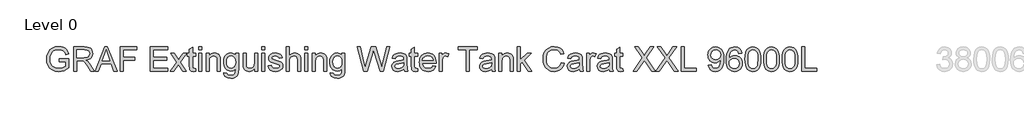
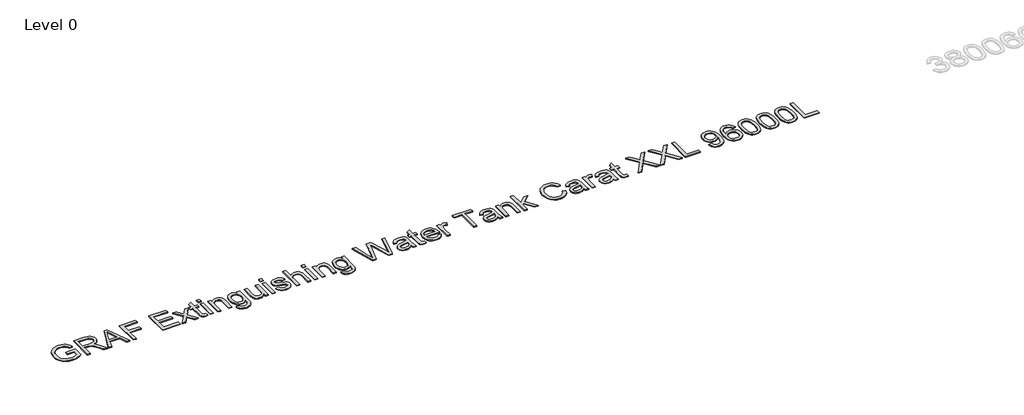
# One storey, part 26 of 37: 1 proxy.
"""IFC4 building model written with IfcOpenShell, lengths in millimetres."""

from ifc_helpers import new_model, si_unit, origin, origin_with_axes, place, context, project, spatial, polyline, outline, extrude, element, save

model = new_model("IFC4")

# Units and contexts
model_context = context("Model", 3, world=origin())
ifc_project = project(units=[si_unit("LENGTHUNIT", "METRE", prefix="MILLI")], contexts=[model_context])

# Site, building, storey
site = spatial("IfcSite", under=ifc_project)
building = spatial("IfcBuilding", under=site)
storey = spatial("IfcBuildingStorey", under=building, Name="Level 0", Elevation=0.0)

# Proxy
placement = place(None, origin())
element("IfcBuildingElementProxy", 1, Name="300mm Arial", ObjectType="300mm Arial", at=placement, inside=storey, context=model_context, shape_type="SweptSolid", body=[
    extrude(outline(polyline([(16759.0059613, -21583.2545597), (16759.0059613, -21545.5834434), (16881.4370893, -21545.5834434), (16881.4370893, -21658.2289103), (16851.6846329, -21678.9222726), (16820.9940775, -21693.7663111), (16789.4389993, -21702.7058436), (16757.0929749, -21705.6856877), (16714.8325307, -21700.949207), (16676.6371825, -21686.739765), (16644.9073605, -21663.5540022), (16622.0434945, -21631.8885595), (16608.2203285, -21593.9047435), (16603.6126065, -21551.7638609), (16608.2019344, -21509.3194757), (16621.9699181, -21469.8365406), (16644.3463404, -21436.717964), (16674.7609844, -21413.3666543), (16711.8067013, -21399.5158972), (16754.0763425, -21394.8989782), (16785.1071888, -21397.5753197), (16813.0110382, -21405.6043443), (16836.5095006, -21418.4066377), (16854.3241862, -21435.4027859), (16867.5035587, -21457.4113262), (16877.0960817, -21485.2507962), (16842.3680214, -21495.0364573), (16834.6149083, -21475.1800266), (16825.1879322, -21460.1980323), (16812.7167326, -21448.9040551), (16795.830949, -21440.1116754), (16775.6986068, -21434.4554897), (16753.4877313, -21432.5700945), (16727.4876713, -21434.6026425), (16705.2584018, -21440.7002866), (16686.8826961, -21450.0996716), (16672.4433278, -21462.0374423), (16653.0559467, -21491.0633317), (16644.2267788, -21519.50061), (16641.2837228, -21550.2187566), (16644.824587, -21586.2436009), (16655.4471796, -21615.8856927), (16672.8296039, -21638.9334997), (16696.6499631, -21655.1754898), (16724.5262213, -21664.804801), (16754.0763425, -21668.0145714), (16780.168373, -21665.5957473), (16805.6166101, -21658.3392749), (16827.7171209, -21648.3420817), (16843.765973, -21637.701095), (16843.765973, -21583.2545597), (16759.0059613, -21583.2545597)])), origin_with_axes(), (0.0, 0.0, 1.0), 10.0),
    extrude(outline(polyline([(16942.6526533, -21700.9767982), (16942.6526533, -21399.6078677), (17072.5149976, -21399.6078677), (17107.4178018, -21401.6404158), (17132.8108566, -21407.7380598), (17151.3705032, -21418.9952489), (17165.7730833, -21436.5064318), (17175.0161185, -21458.2206666), (17178.0971302, -21482.087011), (17172.9927675, -21511.7750881), (17157.6796794, -21536.3863935), (17146.0799003, -21546.4157764), (17131.6980135, -21554.4310054), (17094.5879173, -21564.4190016), (17115.9986494, -21580.532233), (17146.532855, -21619.3069952), (17196.7855355, -21700.9767982), (17153.0075781, -21700.9767982), (17113.7913574, -21638.5104354), (17085.4644438, -21597.1604991), (17065.5620278, -21577.6259652), (17047.6461747, -21570.4522663), (17025.7939842, -21569.1278911), (16980.3237696, -21569.1278911), (16980.3237696, -21700.9767982), (16942.6526533, -21700.9767982)]), holes=[polyline([(16980.3237696, -21531.4567748), (17064.6423229, -21531.4567748), (17088.8581552, -21530.1232026), (17107.6477281, -21526.1224859), (17121.7927908, -21519.1879103), (17132.0750926, -21509.0527613), (17138.3382835, -21496.7930938), (17140.4260139, -21483.4849626), (17136.4436913, -21465.109257), (17124.4967235, -21450.3020067), (17103.941317, -21440.5347397), (17074.1336783, -21437.278984), (16980.3237696, -21437.278984), (16980.3237696, -21531.4567748)])]), origin_with_axes(), (0.0, 0.0, 1.0), 10.0),
    extrude(outline(polyline([(17208.9256414, -21700.9767982), (17329.2230538, -21399.6078677), (17361.3023638, -21399.6078677), (17481.5997762, -21700.9767982), (17441.7949443, -21700.9767982), (17407.2876132, -21606.7990074), (17283.164228, -21606.7990074), (17248.7304732, -21700.9767982), (17208.9256414, -21700.9767982)]), holes=[polyline([(17296.996591, -21569.1278911), (17393.5288265, -21569.1278911), (17366.3791353, -21495.0364573), (17345.2627088, -21437.278984), (17326.500727, -21488.5617342), (17296.996591, -21569.1278911)])]), origin_with_axes(), (0.0, 0.0, 1.0), 10.0),
    extrude(outline(polyline([(17521.8460665, -21700.9767982), (17521.8460665, -21399.6078677), (17724.3283166, -21399.6078677), (17724.3283166, -21437.278984), (17559.5171828, -21437.278984), (17559.5171828, -21526.7478853), (17700.7838689, -21526.7478853), (17700.7838689, -21564.4190016), (17559.5171828, -21564.4190016), (17559.5171828, -21700.9767982), (17521.8460665, -21700.9767982)])), origin_with_axes(), (0.0, 0.0, 1.0), 10.0),
    extrude(outline(polyline([(17893.84834, -21700.9767982), (17893.84834, -21399.6078677), (18110.4572587, -21399.6078677), (18110.4572587, -21437.278984), (17931.5194563, -21437.278984), (17931.5194563, -21526.7478853), (18101.0394797, -21526.7478853), (18101.0394797, -21564.4190016), (17931.5194563, -21564.4190016), (17931.5194563, -21663.3056819), (18115.1661483, -21663.3056819), (18115.1661483, -21700.9767982), (17893.84834, -21700.9767982)])), origin_with_axes(), (0.0, 0.0, 1.0), 10.0),
    extrude(outline(polyline([(18143.4194855, -21700.9767982), (18223.9120661, -21589.7292828), (18148.1283751, -21479.6589899), (18193.4514369, -21479.6589899), (18230.0189072, -21532.6339972), (18247.0886318, -21557.6499729), (18261.877488, -21537.1957339), (18303.5217298, -21479.6589899), (18348.8447916, -21479.6589899), (18269.2351279, -21589.7292828), (18345.9017357, -21700.9767982), (18300.5786739, -21700.9767982), (18254.4462717, -21634.0958515), (18245.9849858, -21621.8821692), (18188.7425473, -21700.9767982), (18143.4194855, -21700.9767982)])), origin_with_axes(), (0.0, 0.0, 1.0), 10.0),
    extrude(outline(polyline([(18458.9150846, -21669.5596758), (18463.6239741, -21702.0804442), (18435.4442133, -21705.6856877), (18417.3628132, -21704.1221892), (18403.8799381, -21699.4316938), (18394.3517944, -21692.2028126), (18388.1345887, -21683.0241568), (18384.7132861, -21667.2604133), (18383.572852, -21640.276269), (18383.572852, -21517.3301062), (18355.3195147, -21517.3301062), (18355.3195147, -21479.6589899), (18383.572852, -21479.6589899), (18383.572852, -21425.8746422), (18421.2439683, -21403.7281461), (18421.2439683, -21479.6589899), (18458.9150846, -21479.6589899), (18458.9150846, -21517.3301062), (18421.2439683, -21517.3301062), (18421.2439683, -21639.172623), (18423.230531, -21658.5967923), (18429.668466, -21665.4761856), (18442.5075476, -21668.0145714), (18458.9150846, -21669.5596758)])), origin_with_axes(), (0.0, 0.0, 1.0), 10.0),
    extrude(outline(polyline([(18496.5862009, -21437.278984), (18496.5862009, -21399.6078677), (18534.2573172, -21399.6078677), (18534.2573172, -21437.278984), (18496.5862009, -21437.278984)])), origin_with_axes(), (0.0, 0.0, 1.0), 10.0),
    extrude(outline(polyline([(18496.5862009, -21700.9767982), (18496.5862009, -21479.6589899), (18534.2573172, -21479.6589899), (18534.2573172, -21700.9767982), (18496.5862009, -21700.9767982)])), origin_with_axes(), (0.0, 0.0, 1.0), 10.0),
    extrude(outline(polyline([(18590.7639916, -21700.9767982), (18590.7639916, -21479.6589899), (18628.435108, -21479.6589899), (18628.435108, -21510.5610775), (18641.5225099, -21494.981275), (18657.2402682, -21483.8528446), (18675.5883827, -21477.1757864), (18696.5668535, -21474.9501003), (18715.1356972, -21476.7435251), (18732.1410424, -21482.1237992), (18746.3228933, -21490.4195382), (18756.4212541, -21500.9593574), (18767.7152313, -21528.6608716), (18769.7017941, -21565.0811892), (18769.7017941, -21700.9767982), (18732.0306778, -21700.9767982), (18732.0306778, -21570.1579607), (18727.6896703, -21536.8278519), (18721.6839967, -21526.9042351), (18712.3489911, -21519.2063044), (18700.3836292, -21514.2674886), (18686.4868868, -21512.6212166), (18664.4231641, -21516.3184307), (18645.6151971, -21527.4100729), (18638.0989081, -21536.4645685), (18632.7301302, -21548.8391991), (18628.435108, -21583.5488653), (18628.435108, -21700.9767982), (18590.7639916, -21700.9767982)])), origin_with_axes(), (0.0, 0.0, 1.0), 10.0),
    extrude(outline(polyline([(18812.0817999, -21719.8123563), (18849.7529163, -21724.5212459), (18853.9099828, -21736.2934697), (18861.9665985, -21744.3868736), (18877.8039184, -21750.6776557), (18898.5340688, -21752.7745831), (18920.6437767, -21750.4017442), (18937.0881019, -21743.2832276), (18948.4924438, -21731.8788858), (18955.4822017, -21716.6485712), (18958.0573756, -21672.7234609), (18945.5217966, -21685.084296), (18931.5330838, -21693.9134639), (18916.091237, -21699.2109646), (18899.1962564, -21700.9767982), (18878.5419816, -21698.9212575), (18860.3571148, -21692.7546356), (18844.6416558, -21682.4769323), (18831.3956047, -21668.0881478), (18820.8856759, -21650.8252852), (18813.378584, -21631.9253477), (18808.8743288, -21611.3883353), (18807.3729104, -21589.214248), (18810.067646, -21558.7996041), (18818.1518529, -21530.8313754), (18831.3404224, -21507.1305779), (18849.3482461, -21489.5182274), (18871.5591215, -21478.5921321), (18897.3568464, -21474.9501003), (18914.9737955, -21477.0102395), (18930.9628667, -21483.190657), (18945.3240601, -21493.4913529), (18958.0573756, -21507.9123271), (18958.0573756, -21479.6589899), (18995.7284919, -21479.6589899), (18995.7284919, -21670.7368982), (18993.153318, -21714.8551464), (18985.4277961, -21743.908627), (18972.1196649, -21763.1764465), (18952.7966631, -21777.9377116), (18927.881855, -21787.3187024), (18897.7983048, -21790.4456994), (18862.7483477, -21786.0403125), (18835.148001, -21772.8241518), (18824.7530354, -21762.9028343), (18817.44368, -21750.7604292), (18813.2199349, -21736.3969365), (18812.0817999, -21719.8123563)]), holes=[polyline([(18845.0440267, -21586.6390741), (18849.0631375, -21621.1923905), (18861.1204699, -21644.9483703), (18879.2478552, -21658.716354), (18901.4771248, -21663.3056819), (18923.5408474, -21658.7439451), (18941.7602032, -21645.0587349), (18953.9830825, -21621.6062577), (18958.0573756, -21587.7427201), (18953.8635209, -21555.0839959), (18941.2819567, -21531.5671394), (18922.7958864, -21517.3576973), (18900.8885136, -21512.6212166), (18879.3766139, -21517.2841209), (18861.3411991, -21531.2728338), (18849.1183198, -21554.4402024), (18845.0440267, -21586.6390741)])]), origin_with_axes(), (0.0, 0.0, 1.0), 10.0),
    extrude(outline(polyline([(19193.5018525, -21700.9767982), (19193.5018525, -21662.9377999), (19179.8718246, -21681.6400008), (19163.9977165, -21694.9987158), (19145.8795283, -21703.0139447), (19125.5172598, -21705.6856877), (19107.1691453, -21703.8094895), (19090.0902237, -21698.180895), (19075.76122, -21689.7196091), (19065.6628592, -21679.3453369), (19054.4424584, -21651.6070344), (19052.2351664, -21616.5846685), (19052.2351664, -21479.6589899), (19089.9062827, -21479.6589899), (19089.9062827, -21598.8527563), (19092.1871511, -21637.2596366), (19097.6777899, -21650.0711271), (19107.0863719, -21659.8108029), (19119.7874978, -21665.9636293), (19135.1557681, -21668.0145714), (19151.4069552, -21665.917644), (19166.6096787, -21659.6268619), (19179.1452577, -21649.7216392), (19187.3950114, -21636.78139), (19191.9751423, -21619.0586749), (19193.5018525, -21594.8060544), (19193.5018525, -21479.6589899), (19231.1729689, -21479.6589899), (19231.1729689, -21700.9767982), (19193.5018525, -21700.9767982)])), origin_with_axes(), (0.0, 0.0, 1.0), 10.0),
    extrude(outline(polyline([(19282.9707538, -21437.278984), (19282.9707538, -21399.6078677), (19320.6418701, -21399.6078677), (19320.6418701, -21437.278984), (19282.9707538, -21437.278984)])), origin_with_axes(), (0.0, 0.0, 1.0), 10.0),
    extrude(outline(polyline([(19282.9707538, -21700.9767982), (19282.9707538, -21479.6589899), (19320.6418701, -21479.6589899), (19320.6418701, -21700.9767982), (19282.9707538, -21700.9767982)])), origin_with_axes(), (0.0, 0.0, 1.0), 10.0),
    extrude(outline(polyline([(19363.0218759, -21635.0523446), (19400.6929922, -21630.3434551), (19406.6342865, -21646.4566865), (19418.1305988, -21658.3024867), (19435.2555057, -21665.5865502), (19458.0825835, -21668.0145714), (19480.6337498, -21665.7888853), (19496.4894638, -21659.1118271), (19505.8704547, -21649.4365307), (19508.9974516, -21638.2161298), (19505.8520606, -21628.6144097), (19496.4158874, -21621.293558), (19457.6411251, -21610.5514038), (19400.9137214, -21592.1205158), (19386.5571266, -21582.8590866), (19376.1552632, -21570.5994191), (19369.8368899, -21556.1232626), (19367.7307655, -21540.2123663), (19369.4230226, -21525.6166481), (19374.4997942, -21512.1429701), (19382.5012276, -21500.324761), (19392.9674703, -21490.6954497), (19416.9165882, -21479.5486253), (19449.326992, -21474.9501003), (19473.846327, -21476.7987074), (19495.1650886, -21482.3445284), (19512.3083896, -21491.0449376), (19524.3013426, -21502.357309), (19532.2475937, -21517.118574), (19537.2507888, -21536.1656643), (19499.5796725, -21540.8745539), (19494.8247977, -21529.0195566), (19485.4162157, -21520.0892211), (19471.261956, -21514.4882178), (19452.270048, -21512.6212166), (19430.6385866, -21514.4054443), (19416.2176124, -21519.7581274), (19408.1058144, -21527.4836493), (19405.4018818, -21536.3863935), (19409.8900421, -21547.349277), (19423.9431343, -21555.6634101), (19456.3903263, -21563.6832376), (19511.6829902, -21581.4151497), (19526.2879054, -21589.8948297), (19537.3611534, -21601.5015067), (19544.3417143, -21616.2719688), (19546.6685679, -21634.2430043), (19543.9370441, -21652.821045), (19535.7424727, -21670.2954398), (19522.3975533, -21685.2958281), (19504.2149857, -21696.4518496), (19482.2524306, -21703.3772282), (19457.5675487, -21705.6856877), (19419.5837327, -21701.2343156), (19391.8638243, -21687.8801992), (19373.35936, -21665.7704912), (19363.0218759, -21635.0523446)])), origin_with_axes(), (0.0, 0.0, 1.0), 10.0),
    extrude(outline(polyline([(19589.0485738, -21700.9767982), (19589.0485738, -21399.6078677), (19626.7196901, -21399.6078677), (19626.7196901, -21510.4139247), (19640.5566516, -21494.8985015), (19656.0950674, -21483.8160564), (19673.3349374, -21477.1665894), (19692.2762616, -21474.9501003), (19715.029763, -21477.3689245), (19734.5826911, -21484.6253968), (19749.9785526, -21496.1493003), (19760.2608543, -21511.3704179), (19766.0549957, -21532.2845093), (19767.9863762, -21560.8873344), (19767.9863762, -21700.9767982), (19730.3152599, -21700.9767982), (19730.3152599, -21564.7868836), (19727.3170216, -21541.2056477), (19718.3223069, -21525.0556281), (19703.8277563, -21515.7298195), (19684.3300105, -21512.6212166), (19668.4099172, -21514.718144), (19653.4647111, -21521.0089261), (19641.085482, -21530.8865577), (19632.8633194, -21543.7440334), (19628.2555974, -21560.8321521), (19626.7196901, -21583.4017125), (19626.7196901, -21700.9767982), (19589.0485738, -21700.9767982)])), origin_with_axes(), (0.0, 0.0, 1.0), 10.0),
    extrude(outline(polyline([(19819.7841611, -21437.278984), (19819.7841611, -21399.6078677), (19857.4552774, -21399.6078677), (19857.4552774, -21437.278984), (19819.7841611, -21437.278984)])), origin_with_axes(), (0.0, 0.0, 1.0), 10.0),
    extrude(outline(polyline([(19819.7841611, -21700.9767982), (19819.7841611, -21479.6589899), (19857.4552774, -21479.6589899), (19857.4552774, -21700.9767982), (19819.7841611, -21700.9767982)])), origin_with_axes(), (0.0, 0.0, 1.0), 10.0),
    extrude(outline(polyline([(19913.9619519, -21700.9767982), (19913.9619519, -21479.6589899), (19951.6330682, -21479.6589899), (19951.6330682, -21510.5610775), (19964.7204702, -21494.981275), (19980.4382284, -21483.8528446), (19998.7863429, -21477.1757864), (20019.7648137, -21474.9501003), (20038.3336574, -21476.7435251), (20055.3390026, -21482.1237992), (20069.5208536, -21490.4195382), (20079.6192143, -21500.9593574), (20090.9131916, -21528.6608716), (20092.8997544, -21565.0811892), (20092.8997544, -21700.9767982), (20055.228638, -21700.9767982), (20055.228638, -21570.1579607), (20050.8876305, -21536.8278519), (20044.8819569, -21526.9042351), (20035.5469513, -21519.2063044), (20023.5815894, -21514.2674886), (20009.684847, -21512.6212166), (19987.6211244, -21516.3184307), (19968.8131574, -21527.4100729), (19961.2968684, -21536.4645685), (19955.9280905, -21548.8391991), (19951.6330682, -21583.5488653), (19951.6330682, -21700.9767982), (19913.9619519, -21700.9767982)])), origin_with_axes(), (0.0, 0.0, 1.0), 10.0),
    extrude(outline(polyline([(20135.2797602, -21719.8123563), (20172.9508765, -21724.5212459), (20177.1079431, -21736.2934697), (20185.1645587, -21744.3868736), (20201.0018786, -21750.6776557), (20221.7320291, -21752.7745831), (20243.841737, -21750.4017442), (20260.2860622, -21743.2832276), (20271.690404, -21731.8788858), (20278.6801619, -21716.6485712), (20281.2553359, -21672.7234609), (20268.7197569, -21685.084296), (20254.731044, -21693.9134639), (20239.2891973, -21699.2109646), (20222.3942167, -21700.9767982), (20201.7399419, -21698.9212575), (20183.555075, -21692.7546356), (20167.839616, -21682.4769323), (20154.5935649, -21668.0881478), (20144.0836362, -21650.8252852), (20136.5765442, -21631.9253477), (20132.0722891, -21611.3883353), (20130.5708707, -21589.214248), (20133.2656063, -21558.7996041), (20141.3498131, -21530.8313754), (20154.5383826, -21507.1305779), (20172.5462063, -21489.5182274), (20194.7570818, -21478.5921321), (20220.5548067, -21474.9501003), (20238.1717557, -21477.0102395), (20254.1608269, -21483.190657), (20268.5220203, -21493.4913529), (20281.2553359, -21507.9123271), (20281.2553359, -21479.6589899), (20318.9264522, -21479.6589899), (20318.9264522, -21670.7368982), (20316.3512782, -21714.8551464), (20308.6257563, -21743.908627), (20295.3176252, -21763.1764465), (20275.9946234, -21777.9377116), (20251.0798152, -21787.3187024), (20220.9962651, -21790.4456994), (20185.946308, -21786.0403125), (20158.3459613, -21772.8241518), (20147.9509957, -21762.9028343), (20140.6416403, -21750.7604292), (20136.4178951, -21736.3969365), (20135.2797602, -21719.8123563)]), holes=[polyline([(20168.241987, -21586.6390741), (20172.2610978, -21621.1923905), (20184.3184302, -21644.9483703), (20202.4458155, -21658.716354), (20224.675085, -21663.3056819), (20246.7388077, -21658.7439451), (20264.9581635, -21645.0587349), (20277.1810428, -21621.6062577), (20281.2553359, -21587.7427201), (20277.0614811, -21555.0839959), (20264.4799169, -21531.5671394), (20245.9938466, -21517.3576973), (20224.0864738, -21512.6212166), (20202.5745742, -21517.2841209), (20184.5391594, -21531.2728338), (20172.3162801, -21554.4402024), (20168.241987, -21586.6390741)])]), origin_with_axes(), (0.0, 0.0, 1.0), 10.0),
    extrude(outline(polyline([(20551.7957551, -21700.9767982), (20469.6109174, -21399.6078677), (20508.4592561, -21399.6078677), (20556.1367627, -21597.6755339), (20570.8520425, -21658.8175215), (20586.5973919, -21604.7388682), (20646.3414279, -21399.6078677), (20702.3330676, -21399.6078677), (20745.743143, -21548.3057702), (20764.3395779, -21603.4880695), (20778.0431822, -21658.8175215), (20792.3170036, -21599.4413675), (20840.4359686, -21399.6078677), (20879.2843072, -21399.6078677), (20797.0258931, -21700.9767982), (20756.7796029, -21700.9767982), (20684.527579, -21468.4753772), (20674.4476123, -21436.0281853), (20663.1168469, -21475.0972531), (20597.2659697, -21700.9767982), (20551.7957551, -21700.9767982)])), origin_with_axes(), (0.0, 0.0, 1.0), 10.0),
    extrude(outline(polyline([(21053.5132202, -21672.7234609), (21035.5145935, -21688.1561106), (21016.982538, -21698.2544714), (20997.4939893, -21703.8278836), (20976.6258832, -21705.6856877), (20945.1443814, -21701.2159215), (20921.9218305, -21687.8066228), (20907.6020238, -21667.4443543), (20902.8287549, -21642.115679), (20904.6313767, -21626.4990883), (20910.039242, -21612.3172373), (20918.3809663, -21600.1771315), (20928.9851648, -21590.685776), (20955.3623038, -21578.324941), (20987.9566486, -21572.6595583), (21026.4738935, -21566.6998699), (21053.292491, -21559.710112), (21053.5132202, -21551.3224025), (21050.9196521, -21534.5101954), (21043.1389479, -21523.5105237), (21025.7381295, -21515.3435434), (21001.494706, -21512.6212166), (20979.0539043, -21514.4330355), (20963.3821313, -21519.868492), (20952.6951594, -21529.9208675), (20945.2087608, -21545.5834434), (20907.5376445, -21540.8745539), (20914.0767469, -21520.2731621), (20923.8348169, -21504.0863544), (20937.7223622, -21491.7071252), (20956.6498908, -21482.5284694), (20979.7988654, -21476.8446926), (21006.3507484, -21474.9501003), (21031.8173795, -21476.6239634), (21052.004904, -21481.6455527), (21067.2260215, -21489.1963306), (21077.7934318, -21498.4577598), (21084.8015838, -21509.9080869), (21089.3449265, -21524.0255585), (21091.1843365, -21556.9877853), (21091.1843365, -21603.8559515), (21093.0973228, -21669.3021584), (21100.6021155, -21700.9767982), (21062.9309992, -21700.9767982), (21053.5132202, -21672.7234609)]), holes=[polyline([(21053.5132202, -21597.3812283), (20992.7391146, -21608.932723), (20960.3287108, -21615.0395641), (20945.6502192, -21624.972378), (20940.4998712, -21639.4669286), (20943.3049715, -21650.6689353), (20951.7202721, -21659.8475911), (20965.5618322, -21665.9728263), (20984.6457107, -21668.0145714), (21004.8792204, -21665.7612942), (21022.7582854, -21659.0014625), (21037.252836, -21649.0410575), (21047.3328026, -21637.1860602), (21051.8025689, -21624.972378), (21053.292491, -21608.0498062), (21053.5132202, -21597.3812283)])]), origin_with_axes(), (0.0, 0.0, 1.0), 10.0),
    extrude(outline(polyline([(21223.0332435, -21669.5596758), (21227.7421331, -21702.0804442), (21199.5623722, -21705.6856877), (21181.4809722, -21704.1221892), (21167.9980971, -21699.4316938), (21158.4699534, -21692.2028126), (21152.2527477, -21683.0241568), (21148.8314451, -21667.2604133), (21147.6910109, -21640.276269), (21147.6910109, -21517.3301062), (21119.4376737, -21517.3301062), (21119.4376737, -21479.6589899), (21147.6910109, -21479.6589899), (21147.6910109, -21425.8746422), (21185.3621272, -21403.7281461), (21185.3621272, -21479.6589899), (21223.0332435, -21479.6589899), (21223.0332435, -21517.3301062), (21185.3621272, -21517.3301062), (21185.3621272, -21639.172623), (21187.34869, -21658.5967923), (21193.7866249, -21665.4761856), (21206.6257066, -21668.0145714), (21223.0332435, -21669.5596758)])), origin_with_axes(), (0.0, 0.0, 1.0), 10.0),
    extrude(outline(polyline([(21415.6562562, -21635.0523446), (21452.5916085, -21639.7612342), (21439.2834774, -21667.5915071), (21418.0474892, -21688.3952339), (21389.3618906, -21701.3630743), (21353.7049282, -21705.6856877), (21330.330626, -21703.8209859), (21309.5039065, -21698.2268803), (21291.2247699, -21688.9033709), (21275.493216, -21675.8504579), (21262.8426739, -21659.4314246), (21253.8065724, -21640.0095545), (21248.3849115, -21617.5848477), (21246.5776912, -21592.157304), (21248.4033056, -21565.8675369), (21253.8801488, -21542.6955698), (21263.0082208, -21522.6414025), (21275.7875216, -21505.7050351), (21291.4776887, -21492.2497512), (21309.3383596, -21482.638834), (21329.3695342, -21476.8722838), (21351.5712127, -21474.9501003), (21373.0578204, -21476.8676852), (21392.4888876, -21482.6204399), (21409.8644141, -21492.2083644), (21425.1843999, -21505.6314587), (21437.6900885, -21522.5310379), (21446.6227232, -21542.548417), (21451.982304, -21565.6835959), (21453.7688309, -21591.9365748), (21453.5481017, -21602.0901179), (21284.2488075, -21602.0901179), (21290.7695159, -21630.2882728), (21305.9170571, -21651.0184232), (21327.7784446, -21663.7655344), (21354.4406922, -21668.0145714), (21374.490261, -21666.0464027), (21391.3760445, -21660.1418967), (21405.098043, -21649.9331713), (21415.6562562, -21635.0523446)]), holes=[polyline([(21284.2488075, -21564.4190016), (21416.0977146, -21564.4190016), (21411.002549, -21544.5165856), (21401.0145528, -21530.2795524), (21379.0519977, -21517.0358006), (21351.4240599, -21512.6212166), (21326.0310051, -21516.1436868), (21305.0341403, -21526.7110971), (21290.4384221, -21543.1830134), (21284.2488075, -21564.4190016)])]), origin_with_axes(), (0.0, 0.0, 1.0), 10.0),
    extrude(outline(polyline([(21491.4399472, -21700.9767982), (21491.4399472, -21479.6589899), (21524.402174, -21479.6589899), (21524.402174, -21512.4004875), (21536.579068, -21493.4177765), (21547.7994689, -21482.2341638), (21559.0566579, -21476.7711162), (21571.3439166, -21474.9501003), (21590.1058983, -21477.8563681), (21609.1621857, -21486.5751714), (21596.5806214, -21520.3467385), (21583.3368696, -21514.5525971), (21570.0931178, -21512.6212166), (21558.8451258, -21514.4790207), (21548.7927503, -21520.052433), (21540.6717552, -21528.918389), (21535.2179046, -21540.6538247), (21530.6377738, -21561.6966748), (21529.1110635, -21584.6525113), (21529.1110635, -21700.9767982), (21491.4399472, -21700.9767982)])), origin_with_axes(), (0.0, 0.0, 1.0), 10.0),
    extrude(outline(polyline([(21830.479994, -21700.9767982), (21830.479994, -21437.278984), (21731.5933137, -21437.278984), (21731.5933137, -21399.6078677), (21967.0377906, -21399.6078677), (21967.0377906, -21437.278984), (21868.1511103, -21437.278984), (21868.1511103, -21700.9767982), (21830.479994, -21700.9767982)])), origin_with_axes(), (0.0, 0.0, 1.0), 10.0),
    extrude(outline(polyline([(22145.975593, -21672.7234609), (22127.9769664, -21688.1561106), (22109.4449109, -21698.2544714), (22089.9563622, -21703.8278836), (22069.088256, -21705.6856877), (22037.6067543, -21701.2159215), (22014.3842034, -21687.8066228), (22000.0643967, -21667.4443543), (21995.2911278, -21642.115679), (21997.0937496, -21626.4990883), (22002.5016149, -21612.3172373), (22010.8433392, -21600.1771315), (22021.4475377, -21590.685776), (22047.8246767, -21578.324941), (22080.4190215, -21572.6595583), (22118.9362664, -21566.6998699), (22145.7548638, -21559.710112), (22145.975593, -21551.3224025), (22143.382025, -21534.5101954), (22135.6013208, -21523.5105237), (22118.2005024, -21515.3435434), (22093.9570789, -21512.6212166), (22071.5162772, -21514.4330355), (22055.8445042, -21519.868492), (22045.1575323, -21529.9208675), (22037.6711337, -21545.5834434), (22000.0000174, -21540.8745539), (22006.5391198, -21520.2731621), (22016.2971897, -21504.0863544), (22030.1847351, -21491.7071252), (22049.1122637, -21482.5284694), (22072.2612383, -21476.8446926), (22098.8131213, -21474.9501003), (22124.2797524, -21476.6239634), (22144.4672769, -21481.6455527), (22159.6883944, -21489.1963306), (22170.2558047, -21498.4577598), (22177.2639567, -21509.9080869), (22181.8072994, -21524.0255585), (22183.6467093, -21556.9877853), (22183.6467093, -21603.8559515), (22185.5596957, -21669.3021584), (22193.0644884, -21700.9767982), (22155.3933721, -21700.9767982), (22145.975593, -21672.7234609)]), holes=[polyline([(22145.975593, -21597.3812283), (22085.2014874, -21608.932723), (22052.7910837, -21615.0395641), (22038.1125921, -21624.972378), (22032.9622441, -21639.4669286), (22035.7673443, -21650.6689353), (22044.182645, -21659.8475911), (22058.024205, -21665.9728263), (22077.1080835, -21668.0145714), (22097.3415933, -21665.7612942), (22115.2206582, -21659.0014625), (22129.7152089, -21649.0410575), (22139.7951755, -21637.1860602), (22144.2649418, -21624.972378), (22145.7548638, -21608.0498062), (22145.975593, -21597.3812283)])]), origin_with_axes(), (0.0, 0.0, 1.0), 10.0),
    extrude(outline(polyline([(22235.4444943, -21700.9767982), (22235.4444943, -21479.6589899), (22273.1156106, -21479.6589899), (22273.1156106, -21510.5610775), (22286.2030125, -21494.981275), (22301.9207708, -21483.8528446), (22320.2688853, -21477.1757864), (22341.2473561, -21474.9501003), (22359.8161998, -21476.7435251), (22376.821545, -21482.1237992), (22391.0033959, -21490.4195382), (22401.1017567, -21500.9593574), (22412.3957339, -21528.6608716), (22414.3822967, -21565.0811892), (22414.3822967, -21700.9767982), (22376.7111804, -21700.9767982), (22376.7111804, -21570.1579607), (22372.3701729, -21536.8278519), (22366.3644993, -21526.9042351), (22357.0294937, -21519.2063044), (22345.0641318, -21514.2674886), (22331.1673894, -21512.6212166), (22309.1036667, -21516.3184307), (22290.2956997, -21527.4100729), (22282.7794107, -21536.4645685), (22277.4106329, -21548.8391991), (22273.1156106, -21583.5488653), (22273.1156106, -21700.9767982), (22235.4444943, -21700.9767982)])), origin_with_axes(), (0.0, 0.0, 1.0), 10.0),
    extrude(outline(polyline([(22466.1800816, -21700.9767982), (22466.1800816, -21399.6078677), (22503.8511979, -21399.6078677), (22503.8511979, -21561.549522), (22588.316904, -21479.6589899), (22640.4089946, -21479.6589899), (22554.9132189, -21562.5795916), (22645.1178841, -21700.9767982), (22601.1191975, -21700.9767982), (22527.9106804, -21588.7727896), (22503.8511979, -21612.0965081), (22503.8511979, -21700.9767982), (22466.1800816, -21700.9767982)])), origin_with_axes(), (0.0, 0.0, 1.0), 10.0),
    extrude(outline(polyline([(23012.4112681, -21593.8495612), (23050.0823844, -21603.5616459), (23042.6281755, -21626.9888312), (23032.6999601, -21647.4591649), (23020.2977383, -21664.9726472), (23005.4215102, -21679.5292779), (22988.4069679, -21690.9727072), (22969.5898038, -21699.1465853), (22948.970018, -21704.0509121), (22926.5476104, -21705.6856877), (22882.8524264, -21700.7376749), (22848.1519572, -21685.8936364), (22821.554089, -21661.668607), (22802.1667078, -21628.5776215), (22790.3301046, -21589.6741005), (22786.3845702, -21548.0114646), (22790.8451394, -21504.0679603), (22804.226847, -21466.1209325), (22825.8307172, -21435.3751947), (22854.9577741, -21413.0355606), (22889.5018935, -21399.4331238), (22927.3569508, -21394.8989782), (22968.6609018, -21400.766696), (22986.629638, -21408.1013433), (23002.809548, -21418.3698495), (23016.9339174, -21431.3009016), (23028.7360316, -21446.6231867), (23045.3734948, -21484.4414558), (23007.7023785, -21493.4177765), (22994.6425677, -21465.9461885), (22976.8002909, -21447.1014333), (22953.954819, -21436.2029292), (22925.8854228, -21432.5700945), (22893.5302013, -21436.5984023), (22866.9507272, -21448.6833259), (22846.7815968, -21467.5556722), (22833.6574066, -21491.9462485), (22826.4561166, -21519.5190041), (22824.0556865, -21547.9378882), (22826.897575, -21582.7395249), (22835.4232402, -21612.8322721), (22849.954579, -21637.0664986), (22870.8134881, -21654.292573), (22895.8202668, -21664.5840718), (22922.7952141, -21668.0145714), (22954.2399276, -21663.3424701), (22980.4423227, -21649.3261661), (23000.225177, -21626.1128122), (23012.4112681, -21593.8495612)])), origin_with_axes(), (0.0, 0.0, 1.0), 10.0),
    extrude(outline(polyline([(23238.4379659, -21672.7234609), (23220.4393393, -21688.1561106), (23201.9072838, -21698.2544714), (23182.4187351, -21703.8278836), (23161.5506289, -21705.6856877), (23130.0691272, -21701.2159215), (23106.8465762, -21687.8066228), (23092.5267696, -21667.4443543), (23087.7535007, -21642.115679), (23089.5561225, -21626.4990883), (23094.9639878, -21612.3172373), (23103.305712, -21600.1771315), (23113.9099105, -21590.685776), (23140.2870496, -21578.324941), (23172.8813944, -21572.6595583), (23211.3986393, -21566.6998699), (23238.2172367, -21559.710112), (23238.4379659, -21551.3224025), (23235.8443978, -21534.5101954), (23228.0636936, -21523.5105237), (23210.6628753, -21515.3435434), (23186.4194518, -21512.6212166), (23163.9786501, -21514.4330355), (23148.3068771, -21519.868492), (23137.6199051, -21529.9208675), (23130.1335065, -21545.5834434), (23092.4623902, -21540.8745539), (23099.0014927, -21520.2731621), (23108.7595626, -21504.0863544), (23122.6471079, -21491.7071252), (23141.5746366, -21482.5284694), (23164.7236111, -21476.8446926), (23191.2754941, -21474.9501003), (23216.7421252, -21476.6239634), (23236.9296497, -21481.6455527), (23252.1507673, -21489.1963306), (23262.7181776, -21498.4577598), (23269.7263296, -21509.9080869), (23274.2696722, -21524.0255585), (23276.1090822, -21556.9877853), (23276.1090822, -21603.8559515), (23278.0220686, -21669.3021584), (23285.5268613, -21700.9767982), (23247.855745, -21700.9767982), (23238.4379659, -21672.7234609)]), holes=[polyline([(23238.4379659, -21597.3812283), (23177.6638603, -21608.932723), (23145.2534565, -21615.0395641), (23130.5749649, -21624.972378), (23125.424617, -21639.4669286), (23128.2297172, -21650.6689353), (23136.6450178, -21659.8475911), (23150.4865779, -21665.9728263), (23169.5704564, -21668.0145714), (23189.8039662, -21665.7612942), (23207.6830311, -21659.0014625), (23222.1775817, -21649.0410575), (23232.2575484, -21637.1860602), (23236.7273146, -21624.972378), (23238.2172367, -21608.0498062), (23238.4379659, -21597.3812283)])]), origin_with_axes(), (0.0, 0.0, 1.0), 10.0),
    extrude(outline(polyline([(23327.9068671, -21700.9767982), (23327.9068671, -21479.6589899), (23360.8690939, -21479.6589899), (23360.8690939, -21512.4004875), (23373.0459879, -21493.4177765), (23384.2663888, -21482.2341638), (23395.5235779, -21476.7711162), (23407.8108365, -21474.9501003), (23426.5728182, -21477.8563681), (23445.6291056, -21486.5751714), (23433.0475414, -21520.3467385), (23419.8037895, -21514.5525971), (23406.5600377, -21512.6212166), (23395.3120457, -21514.4790207), (23385.2596702, -21520.052433), (23377.1386751, -21528.918389), (23371.6848246, -21540.6538247), (23367.1046937, -21561.6966748), (23365.5779834, -21584.6525113), (23365.5779834, -21700.9767982), (23327.9068671, -21700.9767982)])), origin_with_axes(), (0.0, 0.0, 1.0), 10.0),
    extrude(outline(polyline([(23610.4402394, -21672.7234609), (23592.4416128, -21688.1561106), (23573.9095573, -21698.2544714), (23554.4210086, -21703.8278836), (23533.5529024, -21705.6856877), (23502.0714007, -21701.2159215), (23478.8488498, -21687.8066228), (23464.5290431, -21667.4443543), (23459.7557742, -21642.115679), (23461.558396, -21626.4990883), (23466.9662613, -21612.3172373), (23475.3079856, -21600.1771315), (23485.9121841, -21590.685776), (23512.2893231, -21578.324941), (23544.8836679, -21572.6595583), (23583.4009128, -21566.6998699), (23610.2195102, -21559.710112), (23610.4402394, -21551.3224025), (23607.8466714, -21534.5101954), (23600.0659672, -21523.5105237), (23582.6651488, -21515.3435434), (23558.4217253, -21512.6212166), (23535.9809236, -21514.4330355), (23520.3091506, -21519.868492), (23509.6221787, -21529.9208675), (23502.1357801, -21545.5834434), (23464.4646638, -21540.8745539), (23471.0037662, -21520.2731621), (23480.7618361, -21504.0863544), (23494.6493815, -21491.7071252), (23513.5769101, -21482.5284694), (23536.7258847, -21476.8446926), (23563.2777677, -21474.9501003), (23588.7443988, -21476.6239634), (23608.9319233, -21481.6455527), (23624.1530408, -21489.1963306), (23634.7204511, -21498.4577598), (23641.7286031, -21509.9080869), (23646.2719458, -21524.0255585), (23648.1113557, -21556.9877853), (23648.1113557, -21603.8559515), (23650.0243421, -21669.3021584), (23657.5291348, -21700.9767982), (23619.8580185, -21700.9767982), (23610.4402394, -21672.7234609)]), holes=[polyline([(23610.4402394, -21597.3812283), (23549.6661338, -21608.932723), (23517.2557301, -21615.0395641), (23502.5772385, -21624.972378), (23497.4268905, -21639.4669286), (23500.2319907, -21650.6689353), (23508.6472914, -21659.8475911), (23522.4888514, -21665.9728263), (23541.5727299, -21668.0145714), (23561.8062397, -21665.7612942), (23579.6853046, -21659.0014625), (23594.1798552, -21649.0410575), (23604.2598219, -21637.1860602), (23608.7295882, -21624.972378), (23610.2195102, -21608.0498062), (23610.4402394, -21597.3812283)])]), origin_with_axes(), (0.0, 0.0, 1.0), 10.0),
    extrude(outline(polyline([(23779.9602628, -21669.5596758), (23784.6691524, -21702.0804442), (23756.4893915, -21705.6856877), (23738.4079915, -21704.1221892), (23724.9251163, -21699.4316938), (23715.3969727, -21692.2028126), (23709.1797669, -21683.0241568), (23705.7584644, -21667.2604133), (23704.6180302, -21640.276269), (23704.6180302, -21517.3301062), (23676.364693, -21517.3301062), (23676.364693, -21479.6589899), (23704.6180302, -21479.6589899), (23704.6180302, -21425.8746422), (23742.2891465, -21403.7281461), (23742.2891465, -21479.6589899), (23779.9602628, -21479.6589899), (23779.9602628, -21517.3301062), (23742.2891465, -21517.3301062), (23742.2891465, -21639.172623), (23744.2757093, -21658.5967923), (23750.7136442, -21665.4761856), (23763.5527258, -21668.0145714), (23779.9602628, -21669.5596758)])), origin_with_axes(), (0.0, 0.0, 1.0), 10.0),
    extrude(outline(polyline([(23907.1002803, -21700.9767982), (24023.2774144, -21536.7542755), (23925.9358385, -21399.6078677), (23971.1117475, -21399.6078677), (24025.9261648, -21476.7895103), (24044.3938409, -21506.8822575), (24066.0253023, -21476.2744755), (24120.2511084, -21399.6078677), (24166.089205, -21399.6078677), (24068.747629, -21537.1957339), (24184.9247631, -21700.9767982), (24139.7488541, -21700.9767982), (24062.3464823, -21591.789422), (24046.2332509, -21569.1278911), (24028.5013388, -21593.996714), (23952.9383769, -21700.9767982), (23907.1002803, -21700.9767982)])), origin_with_axes(), (0.0, 0.0, 1.0), 10.0),
    extrude(outline(polyline([(24189.6336526, -21700.9767982), (24305.8107867, -21536.7542755), (24208.4692108, -21399.6078677), (24253.6451198, -21399.6078677), (24308.4595371, -21476.7895103), (24326.9272132, -21506.8822575), (24348.5586746, -21476.2744755), (24402.7844806, -21399.6078677), (24448.6225772, -21399.6078677), (24351.2810013, -21537.1957339), (24467.4581354, -21700.9767982), (24422.2822264, -21700.9767982), (24344.8798546, -21591.789422), (24328.7666232, -21569.1278911), (24311.0347111, -21593.996714), (24235.4717492, -21700.9767982), (24189.6336526, -21700.9767982)])), origin_with_axes(), (0.0, 0.0, 1.0), 10.0),
    extrude(outline(polyline([(24505.1292517, -21700.9767982), (24505.1292517, -21399.6078677), (24542.800368, -21399.6078677), (24542.800368, -21663.3056819), (24693.4848332, -21663.3056819), (24693.4848332, -21700.9767982), (24505.1292517, -21700.9767982)])), origin_with_axes(), (0.0, 0.0, 1.0), 10.0),
    extrude(outline(polyline([(24844.1692985, -21625.6345656), (24881.8404148, -21620.925676), (24888.2783497, -21642.308817), (24898.7629865, -21656.867747), (24913.036808, -21665.2278653), (24930.8422965, -21668.0145714), (24946.8175722, -21666.2211467), (24961.3397139, -21660.8408725), (24973.4062434, -21652.4623601), (24982.0146821, -21641.6742206), (24994.3387289, -21608.932723), (24999.7833824, -21565.228342), (24999.5626532, -21557.8707021), (24986.5120394, -21573.7999924), (24969.4331178, -21586.4183449), (24949.558293, -21594.6405075), (24928.1199698, -21597.3812283), (24910.22481, -21595.7073653), (24893.7689885, -21590.685776), (24878.7525053, -21582.3164606), (24865.1753604, -21570.5994191), (24853.9250691, -21556.1462552), (24845.8891468, -21539.5685728), (24841.0675934, -21520.8663719), (24839.4604089, -21500.0396524), (24841.1457683, -21478.5185557), (24846.2018465, -21459.2047509), (24854.6286434, -21442.0982382), (24866.4261592, -21427.1990174), (24880.7620607, -21415.1278894), (24896.8040149, -21406.5056551), (24914.5520219, -21401.3323146), (24934.0060817, -21399.6078677), (24962.1030691, -21403.5442051), (24987.6800648, -21415.3532171), (25009.0724028, -21434.4462927), (25024.6154171, -21460.2348205), (25034.0791814, -21495.8825859), (25037.2337695, -21544.5533738), (25034.0883785, -21596.1580207), (25024.6522053, -21636.045626), (25009.0080235, -21666.0188116), (24987.2386064, -21687.8801992), (24960.2820532, -21701.2343156), (24929.0764629, -21705.6856877), (24896.8683943, -21700.4341722), (24871.1718369, -21684.6796258), (24853.2008014, -21659.4153298), (24844.1692985, -21625.6345656)]), holes=[polyline([(24999.5626532, -21499.1567356), (24995.4975572, -21473.6257252), (24983.302269, -21453.9808266), (24964.3747404, -21441.4544447), (24940.1129228, -21437.278984), (24914.9497943, -21441.7763414), (24894.789861, -21455.2684136), (24881.5461092, -21475.9157906), (24877.1315252, -21501.8790624), (24881.3069859, -21525.1567956), (24893.8333678, -21543.6336688), (24913.4966605, -21555.6910012), (24939.0828532, -21559.710112), (24963.1515328, -21555.6910012), (24982.5297168, -21543.6336688), (24995.3044191, -21524.4762139), (24999.5626532, -21499.1567356)])]), origin_with_axes(), (0.0, 0.0, 1.0), 10.0),
    extrude(outline(polyline([(25263.2604674, -21479.6589899), (25225.5893511, -21484.3678794), (25219.5192981, -21465.6978682), (25211.3155296, -21452.950757), (25194.227411, -21441.1969273), (25173.5708369, -21437.278984), (25156.059654, -21439.5598524), (25139.5785406, -21446.4024575), (25125.4242808, -21460.8142347), (25113.8635891, -21480.6522713), (25106.0552938, -21508.7124704), (25103.1582231, -21547.7907354), (25118.268976, -21530.1599908), (25136.3779672, -21517.7347764), (25156.4735212, -21510.3679394), (25177.5439625, -21507.9123271), (25195.6437567, -21509.5907887), (25212.3455992, -21514.6261735), (25227.6494902, -21523.0184815), (25241.5554297, -21534.7677128), (25253.1115228, -21549.1748914), (25261.3658751, -21565.5410417), (25266.3184865, -21583.8661635), (25267.9693569, -21604.150257), (25264.860754, -21631.1252043), (25255.5349455, -21656.131983), (25240.7644834, -21677.34038), (25221.3219199, -21692.9201825), (25198.0901719, -21702.4943114), (25171.9521562, -21705.6856877), (25149.4952596, -21703.5703662), (25129.2134654, -21697.2244018), (25111.1067734, -21686.6477945), (25095.1751838, -21671.8405442), (25082.1866501, -21652.1772515), (25072.909126, -21627.0325171), (25067.3426116, -21596.406341), (25065.4871068, -21560.2987232), (25067.5472459, -21519.8179082), (25073.7276635, -21485.2691903), (25084.0283593, -21456.6525696), (25098.4493335, -21433.9680461), (25114.0797198, -21418.9354681), (25132.2025066, -21408.1979123), (25152.8176939, -21401.7553789), (25175.9252817, -21399.6078677), (25208.979479, -21404.9237626), (25235.4485885, -21420.8714471), (25253.9898411, -21446.2001224), (25263.2604674, -21479.6589899)]), holes=[polyline([(25103.1582231, -21603.5616459), (25105.3379239, -21620.2542914), (25111.8770264, -21636.1927788), (25122.0305694, -21649.8963831), (25135.053592, -21659.8843793), (25150.7713503, -21665.9820234), (25169.0091002, -21668.0145714), (25193.868726, -21663.8023226), (25213.412457, -21651.165576), (25226.0767947, -21631.2999483), (25230.2982406, -21605.4010558), (25226.131977, -21580.54143), (25213.6331862, -21561.5863102), (25193.7583614, -21549.5841601), (25167.4639958, -21545.5834434), (25142.6411582, -21549.5841601), (25121.8834166, -21561.5863102), (25107.8395215, -21580.0815775), (25103.1582231, -21603.5616459)])]), origin_with_axes(), (0.0, 0.0, 1.0), 10.0),
    extrude(outline(polyline([(25300.9315837, -21552.7203541), (25303.6998957, -21504.4818275), (25312.0048317, -21466.0105679), (25325.7636183, -21436.717964), (25344.8934821, -21416.0154047), (25369.5323787, -21403.709752), (25399.818264, -21399.6078677), (25423.0316179, -21402.0358889), (25443.8169506, -21409.3199524), (25461.1993749, -21421.1749497), (25474.2040034, -21437.3157722), (25484.0264527, -21457.6044643), (25491.8623392, -21481.9030701), (25496.994293, -21512.7591724), (25498.7049443, -21552.7203541), (25495.9642234, -21600.6829692), (25487.7420608, -21639.0622584), (25474.0660477, -21668.3824534), (25454.9637751, -21689.1677861), (25430.2696961, -21701.5562123), (25399.818264, -21705.6856877), (25379.0697194, -21703.892263), (25360.6756197, -21698.5119888), (25344.6359647, -21689.5448652), (25330.9507545, -21676.9908921), (25317.8173673, -21654.2971715), (25308.4363764, -21626.0208417), (25302.8077818, -21592.1619025), (25300.9315837, -21552.7203541)]), holes=[polyline([(25338.6027, -21552.6467777), (25343.0172839, -21611.9033701), (25348.5355138, -21632.1713688), (25356.2610357, -21646.1991691), (25375.9795107, -21662.5607208), (25399.818264, -21668.0145714), (25423.6570173, -21662.5423267), (25443.3754922, -21646.1255927), (25451.1010141, -21632.0747997), (25456.619244, -21611.8113996), (25461.033828, -21552.6467777), (25456.7663968, -21494.7237576), (25451.4321079, -21474.5224375), (25443.9641034, -21460.1612441), (25424.2824167, -21442.9995491), (25399.3768056, -21437.278984), (25375.7955697, -21442.3189674), (25356.8496469, -21457.4389174), (25348.8666076, -21473.0739022), (25343.1644367, -21494.1535405), (25338.6027, -21552.6467777)])]), origin_with_axes(), (0.0, 0.0, 1.0), 10.0),
    extrude(outline(polyline([(25531.667171, -21552.7203541), (25534.4354831, -21504.4818275), (25542.7404191, -21466.0105679), (25556.4992057, -21436.717964), (25575.6290695, -21416.0154047), (25600.2679661, -21403.709752), (25630.5538514, -21399.6078677), (25653.7672052, -21402.0358889), (25674.552538, -21409.3199524), (25691.9349622, -21421.1749497), (25704.9395908, -21437.3157722), (25714.76204, -21457.6044643), (25722.5979265, -21481.9030701), (25727.7298804, -21512.7591724), (25729.4405317, -21552.7203541), (25726.6998108, -21600.6829692), (25718.4776482, -21639.0622584), (25704.801635, -21668.3824534), (25685.6993624, -21689.1677861), (25661.0052835, -21701.5562123), (25630.5538514, -21705.6856877), (25609.8053068, -21703.892263), (25591.4112071, -21698.5119888), (25575.3715521, -21689.5448652), (25561.6863419, -21676.9908921), (25548.5529546, -21654.2971715), (25539.1719637, -21626.0208417), (25533.5433692, -21592.1619025), (25531.667171, -21552.7203541)]), holes=[polyline([(25569.3382874, -21552.6467777), (25573.7528713, -21611.9033701), (25579.2711012, -21632.1713688), (25586.9966231, -21646.1991691), (25606.7150981, -21662.5607208), (25630.5538514, -21668.0145714), (25654.3926046, -21662.5423267), (25674.1110796, -21646.1255927), (25681.8366015, -21632.0747997), (25687.3548314, -21611.8113996), (25691.7694153, -21552.6467777), (25687.5019842, -21494.7237576), (25682.1676953, -21474.5224375), (25674.6996908, -21460.1612441), (25655.018004, -21442.9995491), (25630.112393, -21437.278984), (25606.5311571, -21442.3189674), (25587.5852343, -21457.4389174), (25579.602195, -21473.0739022), (25573.9000241, -21494.1535405), (25569.3382874, -21552.6467777)])]), origin_with_axes(), (0.0, 0.0, 1.0), 10.0),
    extrude(outline(polyline([(25762.4027584, -21552.7203541), (25765.1710704, -21504.4818275), (25773.4760065, -21466.0105679), (25787.2347931, -21436.717964), (25806.3646568, -21416.0154047), (25831.0035535, -21403.709752), (25861.2894387, -21399.6078677), (25884.5027926, -21402.0358889), (25905.2881253, -21409.3199524), (25922.6705496, -21421.1749497), (25935.6751782, -21437.3157722), (25945.4976274, -21457.6044643), (25953.3335139, -21481.9030701), (25958.4654678, -21512.7591724), (25960.176119, -21552.7203541), (25957.4353982, -21600.6829692), (25949.2132356, -21639.0622584), (25935.5372224, -21668.3824534), (25916.4349498, -21689.1677861), (25891.7408709, -21701.5562123), (25861.2894387, -21705.6856877), (25840.5408942, -21703.892263), (25822.1467944, -21698.5119888), (25806.1071394, -21689.5448652), (25792.4219292, -21676.9908921), (25779.288542, -21654.2971715), (25769.9075511, -21626.0208417), (25764.2789566, -21592.1619025), (25762.4027584, -21552.7203541)]), holes=[polyline([(25800.0738747, -21552.6467777), (25804.4884587, -21611.9033701), (25810.0066886, -21632.1713688), (25817.7322105, -21646.1991691), (25837.4506854, -21662.5607208), (25861.2894387, -21668.0145714), (25885.128192, -21662.5423267), (25904.846667, -21646.1255927), (25912.5721889, -21632.0747997), (25918.0904188, -21611.8113996), (25922.5050027, -21552.6467777), (25918.2375716, -21494.7237576), (25912.9032826, -21474.5224375), (25905.4352781, -21460.1612441), (25885.7535914, -21442.9995491), (25860.8479803, -21437.278984), (25837.2667444, -21442.3189674), (25818.3208217, -21457.4389174), (25810.3377824, -21473.0739022), (25804.6356115, -21494.1535405), (25800.0738747, -21552.6467777)])]), origin_with_axes(), (0.0, 0.0, 1.0), 10.0),
    extrude(outline(polyline([(26007.2650144, -21700.9767982), (26007.2650144, -21399.6078677), (26044.9361307, -21399.6078677), (26044.9361307, -21663.3056819), (26195.6205959, -21663.3056819), (26195.6205959, -21700.9767982), (26007.2650144, -21700.9767982)])), origin_with_axes(), (0.0, 0.0, 1.0), 10.0),
])

save(model, "model.ifc")
